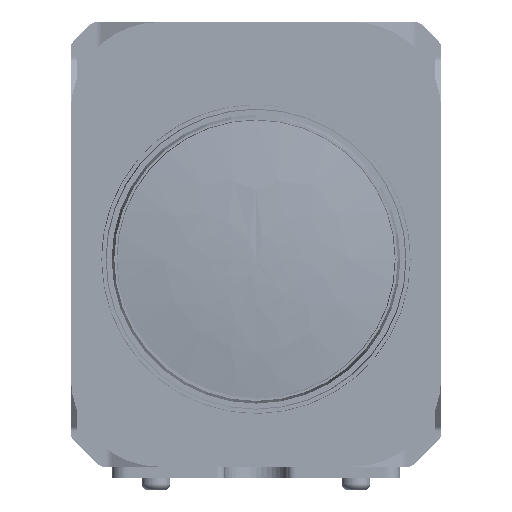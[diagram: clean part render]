
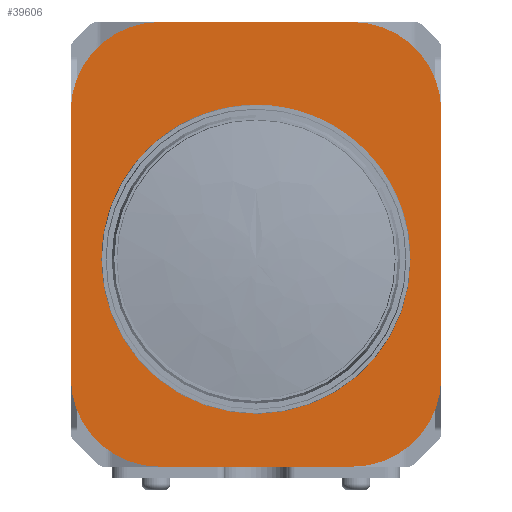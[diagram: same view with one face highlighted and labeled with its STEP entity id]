
A CAD part, left-side view. The second image highlights one B-rep face of the part: STEP entity #39606.
In plain terms, the highlighted planar face has unit normal (-1, 0, 0) as drawn and (1, 0, 0) by its records, which use the part's own axes.
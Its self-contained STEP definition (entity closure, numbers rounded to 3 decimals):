
#39606 = ADVANCED_FACE( '', ( #76134, #76135 ), #76136, .T. );
#76134 = FACE_BOUND( '', #115522, .T. );
#76135 = FACE_OUTER_BOUND( '', #115523, .T. );
#76136 = PLANE( '', #115524 );
#115522 = EDGE_LOOP( '', ( #169820 ) );
#115523 = EDGE_LOOP( '', ( #169821, #169822, #169823, #169824, #169825, #169826, #169827, #169828 ) );
#115524 = AXIS2_PLACEMENT_3D( '', #169829, #169830, #169831 );
#169820 = ORIENTED_EDGE( '', *, *, #236159, .F. );
#169821 = ORIENTED_EDGE( '', *, *, #239410, .T. );
#169822 = ORIENTED_EDGE( '', *, *, #231134, .T. );
#169823 = ORIENTED_EDGE( '', *, *, #226018, .T. );
#169824 = ORIENTED_EDGE( '', *, *, #239411, .T. );
#169825 = ORIENTED_EDGE( '', *, *, #238036, .T. );
#169826 = ORIENTED_EDGE( '', *, *, #225602, .T. );
#169827 = ORIENTED_EDGE( '', *, *, #227017, .T. );
#169828 = ORIENTED_EDGE( '', *, *, #239412, .T. );
#169829 = CARTESIAN_POINT( '', ( 42.95, 0., 0. ) );
#169830 = DIRECTION( '', ( 1., 0., 0. ) );
#169831 = DIRECTION( '', ( 0., 0., -1. ) );
#225602 = EDGE_CURVE( '', #258259, #258263, #258265, .T. );
#226018 = EDGE_CURVE( '', #259012, #259010, #259013, .T. );
#227017 = EDGE_CURVE( '', #258263, #260771, #260773, .T. );
#231134 = EDGE_CURVE( '', #267800, #259012, #267803, .T. );
#236159 = EDGE_CURVE( '', #275856, #275856, #275857, .T. );
#238036 = EDGE_CURVE( '', #278689, #258259, #278690, .T. );
#239410 = EDGE_CURVE( '', #280687, #267800, #280688, .T. );
#239411 = EDGE_CURVE( '', #259010, #278689, #280689, .T. );
#239412 = EDGE_CURVE( '', #260771, #280687, #280690, .T. );
#258259 = VERTEX_POINT( '', #304625 );
#258263 = VERTEX_POINT( '', #304630 );
#258265 = CIRCLE( '', #304633, 12. );
#259010 = VERTEX_POINT( '', #305714 );
#259012 = VERTEX_POINT( '', #305717 );
#259013 = LINE( '', #305718, #305719 );
#260771 = VERTEX_POINT( '', #308169 );
#260773 = LINE( '', #308172, #308173 );
#267800 = VERTEX_POINT( '', #318225 );
#267803 = CIRCLE( '', #318229, 12. );
#275856 = VERTEX_POINT( '', #329869 );
#275857 = CIRCLE( '', #329870, 20.1 );
#278689 = VERTEX_POINT( '', #334009 );
#278690 = LINE( '', #334010, #334011 );
#280687 = VERTEX_POINT( '', #336917 );
#280688 = LINE( '', #336918, #336919 );
#280689 = CIRCLE( '', #336920, 12. );
#280690 = CIRCLE( '', #336921, 12. );
#304625 = CARTESIAN_POINT( '', ( 42.95, -24.995, 12.005 ) );
#304630 = CARTESIAN_POINT( '', ( 42.95, -12.995, 0.005 ) );
#304633 = AXIS2_PLACEMENT_3D( '', #364409, #364410, #364411 );
#305714 = CARTESIAN_POINT( '', ( 42.95, -12.995, 59.995 ) );
#305717 = CARTESIAN_POINT( '', ( 42.95, 12.995, 59.995 ) );
#305718 = CARTESIAN_POINT( '', ( 42.95, 24.995, 59.995 ) );
#305719 = VECTOR( '', #364834, 1000. );
#308169 = CARTESIAN_POINT( '', ( 42.95, 12.995, 0.005 ) );
#308172 = CARTESIAN_POINT( '', ( 42.95, -24.995, 0.005 ) );
#308173 = VECTOR( '', #366013, 1000. );
#318225 = CARTESIAN_POINT( '', ( 42.95, 24.995, 47.995 ) );
#318229 = AXIS2_PLACEMENT_3D( '', #370342, #370343, #370344 );
#329869 = CARTESIAN_POINT( '', ( 42.95, 0., 7.9 ) );
#329870 = AXIS2_PLACEMENT_3D( '', #375759, #375760, #375761 );
#334009 = CARTESIAN_POINT( '', ( 42.95, -24.995, 47.995 ) );
#334010 = CARTESIAN_POINT( '', ( 42.95, -24.995, 59.995 ) );
#334011 = VECTOR( '', #377726, 1000. );
#336917 = CARTESIAN_POINT( '', ( 42.95, 24.995, 12.005 ) );
#336918 = CARTESIAN_POINT( '', ( 42.95, 24.995, 0.005 ) );
#336919 = VECTOR( '', #378987, 1000. );
#336920 = AXIS2_PLACEMENT_3D( '', #378988, #378989, #378990 );
#336921 = AXIS2_PLACEMENT_3D( '', #378991, #378992, #378993 );
#364409 = CARTESIAN_POINT( '', ( 42.95, -12.995, 12.005 ) );
#364410 = DIRECTION( '', ( 1., 0., 0. ) );
#364411 = DIRECTION( '', ( 0., 0., -1. ) );
#364834 = DIRECTION( '', ( 0., -1., 0. ) );
#366013 = DIRECTION( '', ( 0., 1., 0. ) );
#370342 = CARTESIAN_POINT( '', ( 42.95, 12.995, 47.995 ) );
#370343 = DIRECTION( '', ( 1., 0., 0. ) );
#370344 = DIRECTION( '', ( 0., 0., -1. ) );
#375759 = CARTESIAN_POINT( '', ( 42.95, 0., 28. ) );
#375760 = DIRECTION( '', ( 1., 0., 0. ) );
#375761 = DIRECTION( '', ( 0., 0., -1. ) );
#377726 = DIRECTION( '', ( 0., 0., -1. ) );
#378987 = DIRECTION( '', ( 0., 0., 1. ) );
#378988 = CARTESIAN_POINT( '', ( 42.95, -12.995, 47.995 ) );
#378989 = DIRECTION( '', ( 1., 0., 0. ) );
#378990 = DIRECTION( '', ( 0., 0., -1. ) );
#378991 = CARTESIAN_POINT( '', ( 42.95, 12.995, 12.005 ) );
#378992 = DIRECTION( '', ( 1., 0., 0. ) );
#378993 = DIRECTION( '', ( 0., 0., -1. ) );
